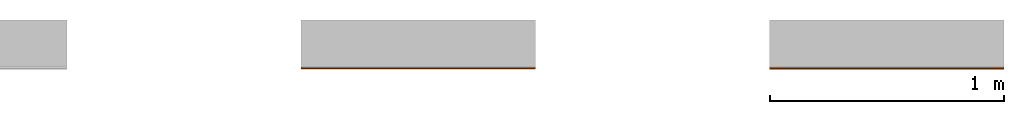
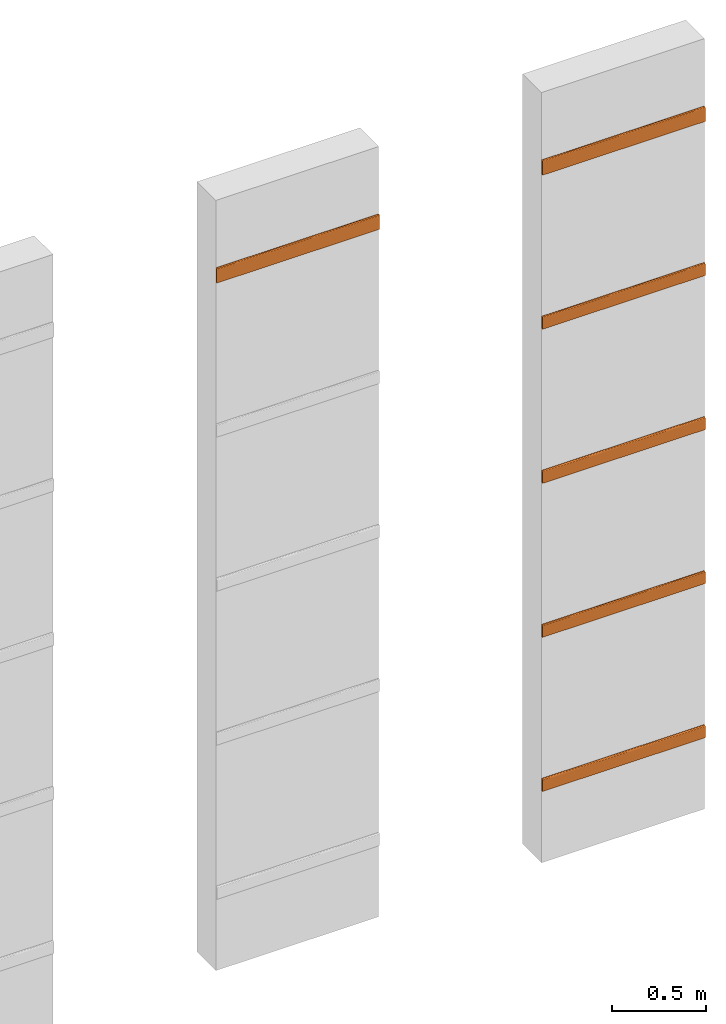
# One storey, part 4 of 4: 6 proxies.
"""IFC2X3 building model written with IfcOpenShell, lengths in millimetres."""

from ifc_helpers import new_model, entity, si_unit, converted_unit, derived_unit, direction, frame, frame_2d, origin, place, context, subcontext, project, spatial, polyline, circle_curve, parameter, trimmed, segment, composite_curve, outline, extrude, type_object, element, save


model = new_model("IFC2X3")

# Units and contexts
model_context = context("Model", 3, precision=0.01, world=origin(), true_north=direction((6.12303176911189e-17, 1.0)))
body_context = subcontext(model_context, "Body", "Model", "MODEL_VIEW")
ifc_project = project(units=[si_unit("LENGTHUNIT", "METRE", prefix="MILLI"), si_unit("AREAUNIT", "SQUARE_METRE"), si_unit("VOLUMEUNIT", "CUBIC_METRE"), converted_unit("PLANEANGLEUNIT", "DEGREE", entity("IfcRatioMeasure", 0.0174532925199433), si_unit("PLANEANGLEUNIT", "RADIAN"), dimensions=[0, 0, 0, 0, 0, 0, 0]), si_unit("MASSUNIT", "GRAM", prefix="KILO"), derived_unit("MASSDENSITYUNIT", [(si_unit("MASSUNIT", "GRAM", prefix="KILO"), 1), (si_unit("LENGTHUNIT", "METRE"), -3)]), derived_unit("MOMENTOFINERTIAUNIT", [(si_unit("LENGTHUNIT", "METRE"), 4)]), si_unit("TIMEUNIT", "SECOND"), si_unit("FREQUENCYUNIT", "HERTZ"), si_unit("THERMODYNAMICTEMPERATUREUNIT", "DEGREE_CELSIUS"), derived_unit("THERMALTRANSMITTANCEUNIT", [(si_unit("MASSUNIT", "GRAM", prefix="KILO"), 1), (si_unit("THERMODYNAMICTEMPERATUREUNIT", "KELVIN"), -1), (si_unit("TIMEUNIT", "SECOND"), -3)]), derived_unit("VOLUMETRICFLOWRATEUNIT", [(si_unit("LENGTHUNIT", "METRE"), 3), (si_unit("TIMEUNIT", "SECOND"), -1)]), si_unit("ELECTRICCURRENTUNIT", "AMPERE"), si_unit("ELECTRICVOLTAGEUNIT", "VOLT"), si_unit("POWERUNIT", "WATT"), si_unit("FORCEUNIT", "NEWTON", prefix="KILO"), si_unit("ILLUMINANCEUNIT", "LUX"), si_unit("LUMINOUSFLUXUNIT", "LUMEN"), si_unit("LUMINOUSINTENSITYUNIT", "CANDELA"), derived_unit("USERDEFINED", [(si_unit("MASSUNIT", "GRAM", prefix="KILO"), -1), (si_unit("LENGTHUNIT", "METRE"), -2), (si_unit("TIMEUNIT", "SECOND"), 3), (si_unit("LUMINOUSFLUXUNIT", "LUMEN"), 1)]), derived_unit("LINEARVELOCITYUNIT", [(si_unit("LENGTHUNIT", "METRE"), 1), (si_unit("TIMEUNIT", "SECOND"), -1)]), si_unit("PRESSUREUNIT", "PASCAL"), derived_unit("USERDEFINED", [(si_unit("LENGTHUNIT", "METRE"), -2), (si_unit("MASSUNIT", "GRAM", prefix="KILO"), 1), (si_unit("TIMEUNIT", "SECOND"), -2)]), derived_unit("LINEARFORCEUNIT", [(si_unit("MASSUNIT", "GRAM", prefix="KILO"), 1), (si_unit("LENGTHUNIT", "METRE"), 1), (si_unit("TIMEUNIT", "SECOND"), -2), (si_unit("LENGTHUNIT", "METRE"), -1)]), derived_unit("PLANARFORCEUNIT", [(si_unit("MASSUNIT", "GRAM", prefix="KILO"), 1), (si_unit("LENGTHUNIT", "METRE"), 1), (si_unit("TIMEUNIT", "SECOND"), -2), (si_unit("LENGTHUNIT", "METRE"), -2)])], contexts=[model_context])

# Site, building, storey
site_placement = place(None, origin())
site = spatial("IfcSite", under=ifc_project, at=site_placement, Name="Default", CompositionType="ELEMENT")
building_placement = place(site_placement, origin())
building = spatial("IfcBuilding", under=site, at=building_placement, CompositionType="ELEMENT")
storey_placement = place(building_placement, origin())
storey = spatial("IfcBuildingStorey", under=building, at=storey_placement, Name="Level 1", CompositionType="ELEMENT", Elevation=0.0)

# Proxies
building_element_proxy_type_1 = type_object("IfcBuildingElementProxyType", Name="Wall Sweep:REVIGRÉS-OMNISTONE-RB-9.5X30-MATTRECT-ROPE", PredefinedType="NOTDEFINED")
proxy_1_placement = place(storey_placement, origin())
element("IfcBuildingElementProxy", 1, at=proxy_1_placement, inside=storey, type_object=building_element_proxy_type_1, Name="Wall Sweep:REVIGRÉS-OMNISTONE-RB-9.5X30-MATTRECT-ROPE", ObjectType="Wall Sweep:REVIGRÉS-OMNISTONE-RB-9.5X30-MATTRECT-ROPE", context=body_context, shape_type="SweptSolid", body=[
    extrude(outline(composite_curve([segment(polyline([(-45.0500000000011, -4.89999999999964), (49.9499999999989, -4.89999999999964)]), True, "CONTINUOUS"), segment(trimmed(circle_curve(frame_2d((40.1499999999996, -4.89999999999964), x_axis=(0.0, 1.0)), 9.79999999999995), [parameter(270.0)], [parameter(0.0)], True, "PARAMETER"), True, "CONTINUOUS"), segment(polyline([(40.1499999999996, 4.90000000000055), (-45.0500000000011, 4.90000000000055)]), True, "CONTINUOUS"), segment(polyline([(-45.0500000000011, 4.90000000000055), (-45.0500000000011, -4.89999999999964)]), True, "CONTINUOUS")], self_intersect=False)), frame((25592.0023157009, -6978.01532249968, -13484.5557204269), z_axis=(1.0, 0.0, 0.0), x_axis=(0.0, 0.0, 1.0)), (0.0, 0.0, 1.0), 1000.0),
])
building_element_proxy_type_2 = type_object("IfcBuildingElementProxyType", Name="Wall Sweep:REVIGRÉS-OMNISTONE-RB-8X45-SOFT-ROPE", PredefinedType="NOTDEFINED")
proxy_2_placement = place(storey_placement, origin())
element("IfcBuildingElementProxy", 2, at=proxy_2_placement, inside=storey, type_object=building_element_proxy_type_2, Name="Wall Sweep:REVIGRÉS-OMNISTONE-RB-8X45-SOFT-ROPE", ObjectType="Wall Sweep:REVIGRÉS-OMNISTONE-RB-8X45-SOFT-ROPE", context=body_context, shape_type="SweptSolid", body=[
    extrude(outline(composite_curve([segment(polyline([(-37.375, -5.25), (42.6250000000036, -5.25)]), True, "CONTINUOUS"), segment(trimmed(circle_curve(frame_2d((32.1250000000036, -5.25), x_axis=(0.0, 1.0)), 10.4999999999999), [parameter(270.0)], [parameter(0.0)], True, "PARAMETER"), True, "CONTINUOUS"), segment(polyline([(32.1250000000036, 5.25), (-37.375, 5.25)]), True, "CONTINUOUS"), segment(polyline([(-37.375, 5.25), (-37.375, -5.25)]), True, "CONTINUOUS")], self_intersect=False)), frame((27592.0023157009, -6978.36532249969, -17492.2307204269), z_axis=(1.0, 0.0, 0.0), x_axis=(0.0, 0.0, 1.0)), (0.0, 0.0, 1.0), 1000.0),
])
building_element_proxy_type_3 = type_object("IfcBuildingElementProxyType", Name="Wall Sweep:REVIGRÉS-OMNISTONE-RB-8X60-SOFT-ROPE", PredefinedType="NOTDEFINED")
proxy_3_placement = place(storey_placement, origin())
element("IfcBuildingElementProxy", 3, at=proxy_3_placement, inside=storey, type_object=building_element_proxy_type_3, Name="Wall Sweep:REVIGRÉS-OMNISTONE-RB-8X60-SOFT-ROPE", ObjectType="Wall Sweep:REVIGRÉS-OMNISTONE-RB-8X60-SOFT-ROPE", context=body_context, shape_type="SweptSolid", body=[
    extrude(outline(composite_curve([segment(polyline([(-37.5500000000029, -4.90000000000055), (42.4499999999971, -4.90000000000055)]), True, "CONTINUOUS"), segment(trimmed(circle_curve(frame_2d((32.6499999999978, -4.90000000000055), x_axis=(0.0, 1.0)), 9.79999999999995), [parameter(270.0)], [parameter(0.0)], True, "PARAMETER"), True, "CONTINUOUS"), segment(polyline([(32.6499999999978, 4.89999999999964), (-37.5500000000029, 4.89999999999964)]), True, "CONTINUOUS"), segment(polyline([(-37.5500000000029, 4.89999999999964), (-37.5500000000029, -4.90000000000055)]), True, "CONTINUOUS")], self_intersect=False)), frame((27592.0023157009, -6978.01532249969, -16492.0557204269), z_axis=(1.0, 0.0, 0.0), x_axis=(0.0, 0.0, 1.0)), (0.0, 0.0, 1.0), 1000.0),
])
building_element_proxy_type_4 = type_object("IfcBuildingElementProxyType", Name="Wall Sweep:REVIGRÉS-OMNISTONE-RB-8X90-SOFT-ROPE", PredefinedType="NOTDEFINED")
proxy_4_placement = place(storey_placement, origin())
element("IfcBuildingElementProxy", 4, at=proxy_4_placement, inside=storey, type_object=building_element_proxy_type_4, Name="Wall Sweep:REVIGRÉS-OMNISTONE-RB-8X90-SOFT-ROPE", ObjectType="Wall Sweep:REVIGRÉS-OMNISTONE-RB-8X90-SOFT-ROPE", context=body_context, shape_type="SweptSolid", body=[
    extrude(outline(composite_curve([segment(polyline([(-37.3750000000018, -5.25), (42.625, -5.25)]), True, "CONTINUOUS"), segment(trimmed(circle_curve(frame_2d((32.125, -5.25), x_axis=(0.0, 1.0)), 10.4999999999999), [parameter(270.0)], [parameter(0.0)], True, "PARAMETER"), True, "CONTINUOUS"), segment(polyline([(32.125, 5.25), (-37.3750000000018, 5.25)]), True, "CONTINUOUS"), segment(polyline([(-37.3750000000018, 5.25), (-37.3750000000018, -5.25)]), True, "CONTINUOUS")], self_intersect=False)), frame((27592.0023157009, -6978.36532249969, -15492.2307204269), z_axis=(1.0, 0.0, 0.0), x_axis=(0.0, 0.0, 1.0)), (0.0, 0.0, 1.0), 1000.0),
])
building_element_proxy_type_5 = type_object("IfcBuildingElementProxyType", Name="Wall Sweep:REVIGRÉS-OMNISTONE-RB-8X120-SOFT-ROPE", PredefinedType="NOTDEFINED")
proxy_5_placement = place(storey_placement, origin())
element("IfcBuildingElementProxy", 5, at=proxy_5_placement, inside=storey, type_object=building_element_proxy_type_5, Name="Wall Sweep:REVIGRÉS-OMNISTONE-RB-8X120-SOFT-ROPE", ObjectType="Wall Sweep:REVIGRÉS-OMNISTONE-RB-8X120-SOFT-ROPE", context=body_context, shape_type="SweptSolid", body=[
    extrude(outline(composite_curve([segment(polyline([(-37.5499999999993, -4.90000000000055), (42.4499999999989, -4.90000000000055)]), True, "CONTINUOUS"), segment(trimmed(circle_curve(frame_2d((32.6499999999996, -4.90000000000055), x_axis=(0.0, 1.0)), 9.79999999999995), [parameter(270.0)], [parameter(0.0)], True, "PARAMETER"), True, "CONTINUOUS"), segment(polyline([(32.6499999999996, 4.89999999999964), (-37.5499999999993, 4.89999999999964)]), True, "CONTINUOUS"), segment(polyline([(-37.5499999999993, 4.89999999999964), (-37.5499999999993, -4.90000000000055)]), True, "CONTINUOUS")], self_intersect=False)), frame((27592.0023157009, -6978.01532249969, -14492.0557204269), z_axis=(1.0, 0.0, 0.0), x_axis=(0.0, 0.0, 1.0)), (0.0, 0.0, 1.0), 1000.0),
])
building_element_proxy_type_6 = type_object("IfcBuildingElementProxyType", Name="Wall Sweep:REVIGRÉS-OMNISTONE-RB-9.5X30-SOFT-ROPE", PredefinedType="NOTDEFINED")
proxy_6_placement = place(storey_placement, origin())
element("IfcBuildingElementProxy", 6, at=proxy_6_placement, inside=storey, type_object=building_element_proxy_type_6, Name="Wall Sweep:REVIGRÉS-OMNISTONE-RB-9.5X30-SOFT-ROPE", ObjectType="Wall Sweep:REVIGRÉS-OMNISTONE-RB-9.5X30-SOFT-ROPE", context=body_context, shape_type="SweptSolid", body=[
    extrude(outline(composite_curve([segment(polyline([(-45.0500000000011, -4.90000000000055), (49.9499999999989, -4.90000000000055)]), True, "CONTINUOUS"), segment(trimmed(circle_curve(frame_2d((40.1499999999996, -4.90000000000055), x_axis=(0.0, 1.0)), 9.79999999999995), [parameter(270.0)], [parameter(0.0)], True, "PARAMETER"), True, "CONTINUOUS"), segment(polyline([(40.1499999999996, 4.89999999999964), (-45.0500000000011, 4.89999999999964)]), True, "CONTINUOUS"), segment(polyline([(-45.0500000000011, 4.89999999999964), (-45.0500000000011, -4.90000000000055)]), True, "CONTINUOUS")], self_intersect=False)), frame((27592.0023157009, -6978.01532249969, -13484.5557204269), z_axis=(1.0, 0.0, 0.0), x_axis=(0.0, 0.0, 1.0)), (0.0, 0.0, 1.0), 1000.0),
])

save(model, "model.ifc")
